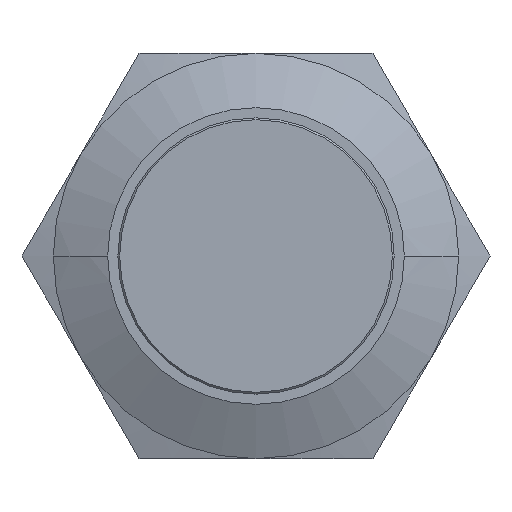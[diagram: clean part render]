
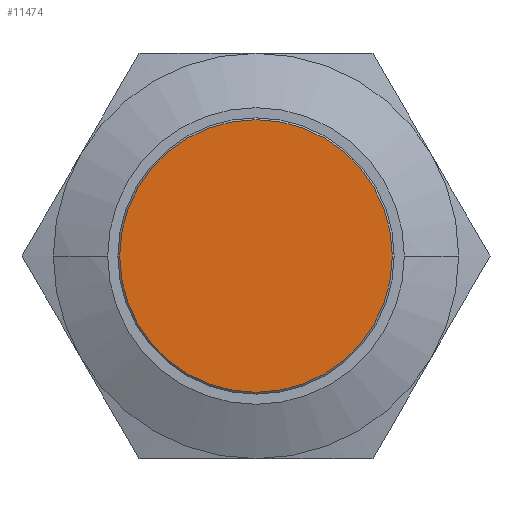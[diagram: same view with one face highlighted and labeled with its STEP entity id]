
A CAD part, front view. The second image highlights one B-rep face of the part: STEP entity #11474.
In plain terms, the highlighted planar face has unit normal (0, -1, 0).
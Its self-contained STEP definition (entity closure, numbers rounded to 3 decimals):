
#11327=CARTESIAN_POINT('',(0.,-11.63,0.));
#11328=DIRECTION('',(0.,1.,0.));
#11329=DIRECTION('',(1.,0.,0.));
#11330=AXIS2_PLACEMENT_3D('',#11327,#11328,#11329);
#11332=CARTESIAN_POINT('',(0.,-11.63,0.));
#11333=DIRECTION('',(0.,1.,0.));
#11334=DIRECTION('',(-1.,0.,0.));
#11335=AXIS2_PLACEMENT_3D('',#11332,#11333,#11334);
#11459=CARTESIAN_POINT('',(7.4,-11.63,0.));
#11460=CARTESIAN_POINT('',(-7.4,-11.63,0.));
#11461=VERTEX_POINT('',#11459);
#11462=VERTEX_POINT('',#11460);
#11463=CARTESIAN_POINT('',(0.,-11.63,0.));
#11464=DIRECTION('',(0.,1.,0.));
#11465=DIRECTION('',(1.,0.,0.));
#11466=AXIS2_PLACEMENT_3D('',#11463,#11464,#11465);
#11467=PLANE('',#11466);
#11469=ORIENTED_EDGE('',*,*,#11468,.T.);
#11471=ORIENTED_EDGE('',*,*,#11470,.T.);
#11472=EDGE_LOOP('',(#11469,#11471));
#11473=FACE_OUTER_BOUND('',#11472,.F.);
#11331=CIRCLE('',#11330,7.4);
#11336=CIRCLE('',#11335,7.4);
#11468=EDGE_CURVE('',#11461,#11462,#11331,.T.);
#11470=EDGE_CURVE('',#11462,#11461,#11336,.T.);
#11474=ADVANCED_FACE('',(#11473),#11467,.F.);
